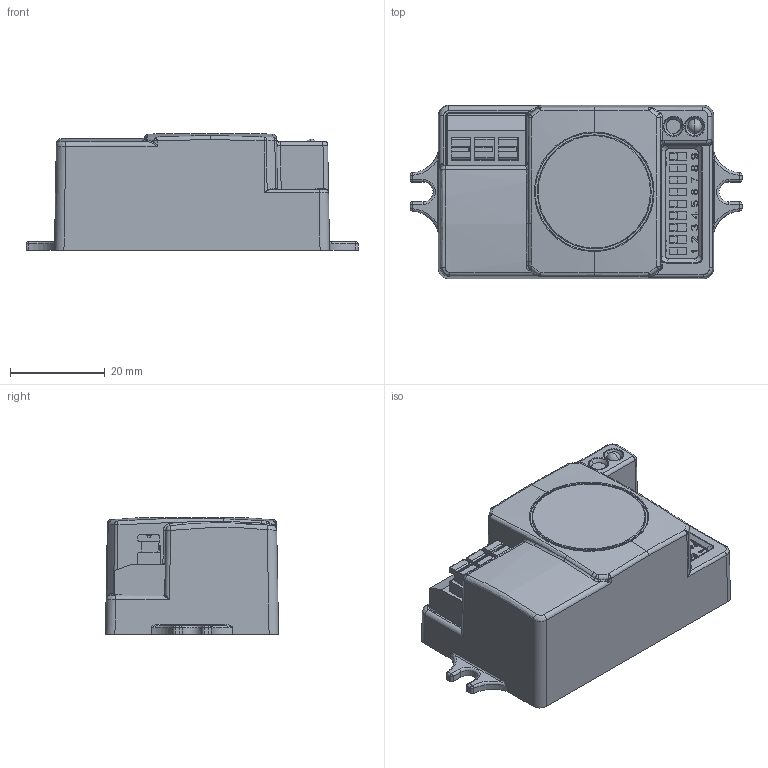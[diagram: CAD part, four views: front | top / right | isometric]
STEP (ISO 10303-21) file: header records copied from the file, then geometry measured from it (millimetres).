
FILE_DESCRIPTION((''),'2;1');
FILE_NAME('15012016Z_70X36-5X24-5_HF5DPF','2017-12-15T',('Emanuel.Wild'),(''),'PRO/ENGINEER BY PARAMETRIC TECHNOLOGY CORPORATION, 2015200','PRO/ENGINEER BY PARAMETRIC TECHNOLOGY CORPORATION, 2015200','');
FILE_SCHEMA(('AUTOMOTIVE_DESIGN { 1 0 10303 214 1 1 1 1 }'));
Length unit declared in the file: millimetre
Products named in the file (1): 15012016Z_70X36-5X24-5_HF5DPF
Bounding box: 70 x 36.5 x 24.5 mm (x, y, z)
Volume: 32040.5 mm3; surface area: 25131.6 mm2
Topology: 4 solids, 5 shells, 1165 faces, 3164 edges, 2046 vertices
Faces by surface type: plane 814, cylinder 192, bspline 86, torus 34, cone 24, sphere 15
Entity records: 40882 total; most frequent: CARTESIAN_POINT 12081, ORIENTED_EDGE 6298, DIRECTION 5310, EDGE_CURVE 3149, VECTOR 2406, LINE 2406, VERTEX_POINT 2046, AXIS2_PLACEMENT_3D 1452
